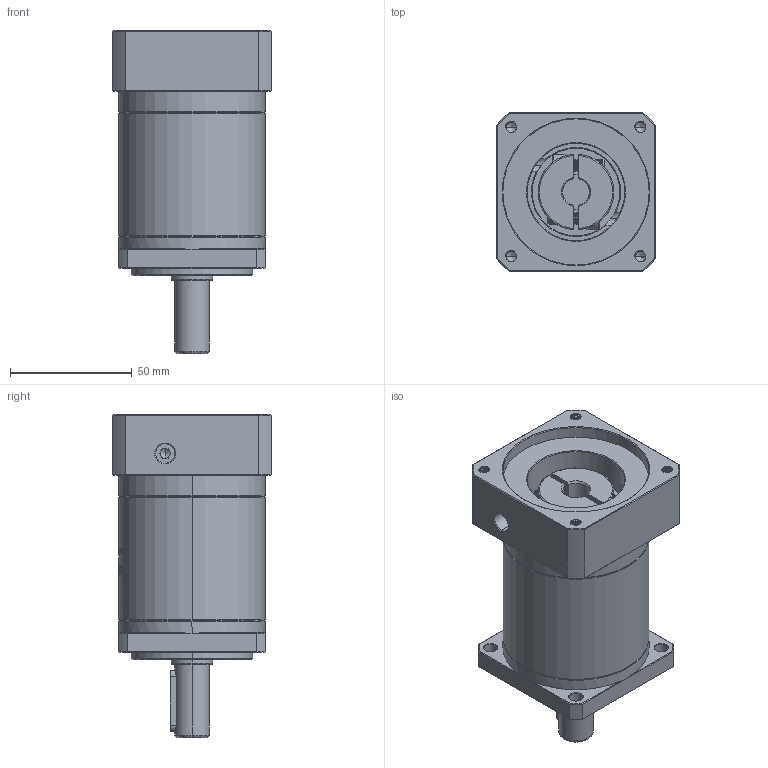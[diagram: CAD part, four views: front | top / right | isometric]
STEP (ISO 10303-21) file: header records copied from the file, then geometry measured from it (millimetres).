
FILE_DESCRIPTION (( 'STEP AP214' ), '1' );
FILE_NAME ('ZF060-D14-L2-P2-11-60-75-M5.step', '2023-08-16T04:23:15', ( '' ), ( '' ), 'SwSTEP 2.0', 'SolidWorks 2016', '' );
FILE_SCHEMA (( 'AUTOMOTIVE_DESIGN' ));
Length unit declared in the file: millimetre
Products named in the file (1): ZF060-D14-L2-P2-11-60-75-M5
Bounding box: 65 x 65 x 132.5 mm (x, y, z)
Volume: 283752.8 mm3; surface area: 49926.7 mm2
Topology: 6 solids, 6 shells, 1771 faces, 4793 edges, 3106 vertices
Faces by surface type: plane 799, cylinder 364, bspline 354, cone 234, torus 20
Entity records: 101563 total; most frequent: CARTESIAN_POINT 41805, ORIENTED_EDGE 9558, DIRECTION 6848, EDGE_CURVE 4779, VERTEX_POINT 3106, LINE 2434, VECTOR 2434, AXIS2_PLACEMENT_3D 2207
